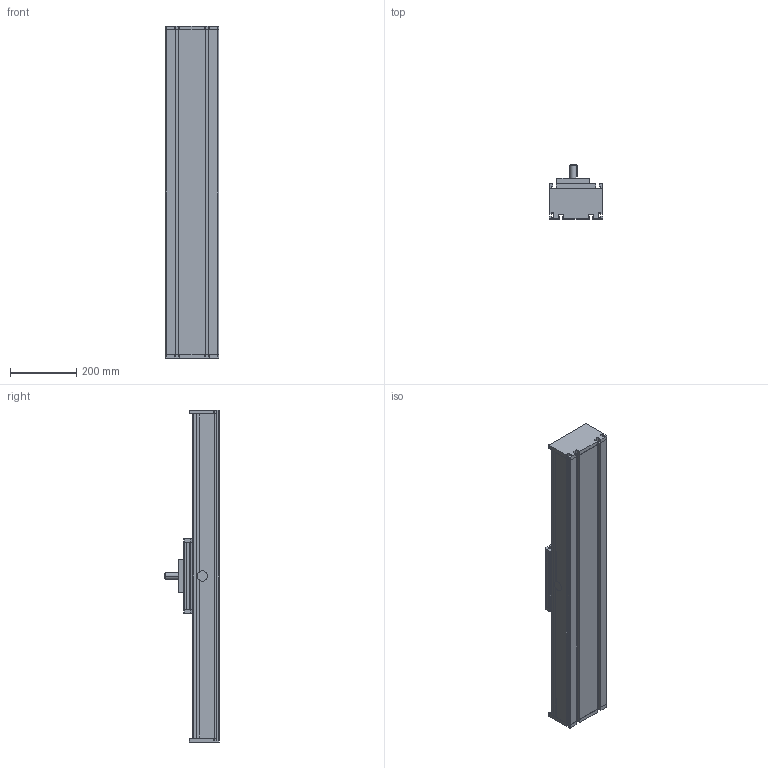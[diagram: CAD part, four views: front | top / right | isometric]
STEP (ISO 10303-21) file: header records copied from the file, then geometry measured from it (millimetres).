
FILE_DESCRIPTION (( 'STEP AP214' ), '1' );
FILE_NAME ('DSZA160.STEP', '2022-07-21T13:06:23', ( '' ), ( '' ), 'SwSTEP 2.0', 'SolidWorks 2020', '' );
FILE_SCHEMA (( 'AUTOMOTIVE_DESIGN' ));
Length unit declared in the file: millimetre
Products named in the file (5): bearing block^DSZA160_lubrication pos.1; profile^DSZA160_standard; end plate^DSZA160_standard; DSZA160; carriage^DSZA160_carriage version 0
Assembly tree (5 placements, depth 2):
  DSZA160
    profile^DSZA160_standard
    carriage^DSZA160_carriage version 0
    bearing block^DSZA160_lubrication pos.1
    end plate^DSZA160_standard  x2
Bounding box: 160.2 x 163.5 x 1000 mm (x, y, z)
Volume: 9374179.7 mm3; surface area: 1565470.9 mm2
Topology: 11 solids, 11 shells, 353 faces, 967 edges, 637 vertices
Faces by surface type: plane 268, cylinder 75, cone 4, sphere 4, bspline 2
Entity records: 11369 total; most frequent: CARTESIAN_POINT 2101, ORIENTED_EDGE 1734, DIRECTION 1636, EDGE_CURVE 867, VECTOR 720, LINE 720, VERTEX_POINT 573, AXIS2_PLACEMENT_3D 458
